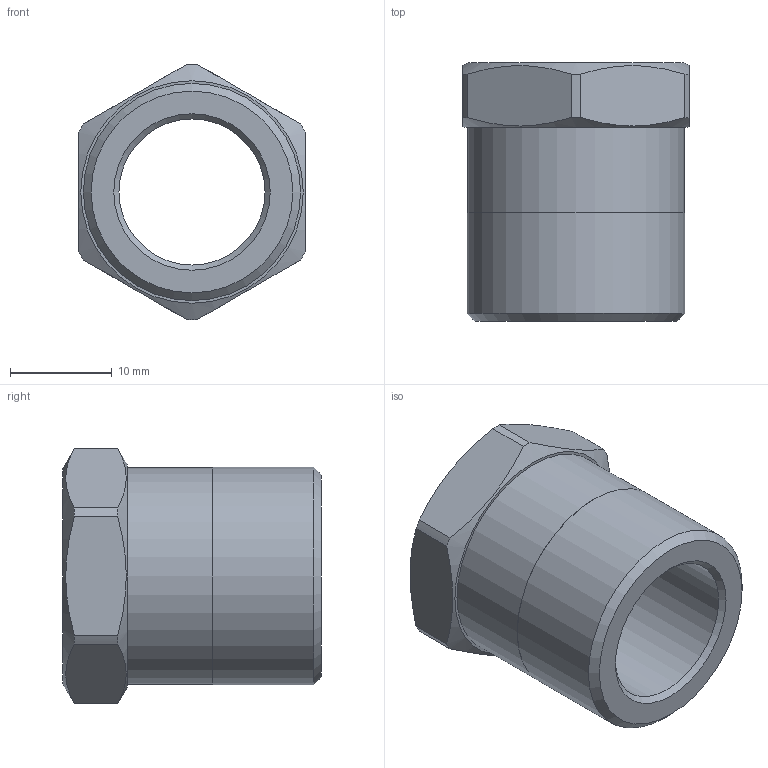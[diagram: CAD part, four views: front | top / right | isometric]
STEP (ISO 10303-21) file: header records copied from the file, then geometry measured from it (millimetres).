
FILE_DESCRIPTION(/* description */ (''),/* implementation_level */ '2;1');
FILE_NAME(/* name */ 'C:/Users/drich/Desktop/RB50-6 v1.step',/* time_stamp */ '2020-02-09T11:00:16-06:00',/* author */ (''),/* organization */ (''),/* preprocessor_version */ 'ST-DEVELOPER v18',/* originating_system */ 'Autodesk Translation Framework v8.12.0.6',/* authorisation */ '');
FILE_SCHEMA (('AUTOMOTIVE_DESIGN { 1 0 10303 214 3 1 1 }'));
Length unit declared in the file: inch
Products named in the file (1): RB50-6
Bounding box: 22.23 x 25.4 x 25.15 mm (x, y, z)
Volume: 5303.1 mm3; surface area: 3311.5 mm2
Topology: 1 solids, 1 shells, 26 faces, 68 edges, 47 vertices
Faces by surface type: plane 11, cylinder 10, cone 5
Full cylindrical faces by diameter (mm): 14.351 x1, 14.402 x1, 21.285 x1, 21.336 x1
Entity records: 861 total; most frequent: CARTESIAN_POINT 166, DIRECTION 145, ORIENTED_EDGE 136, EDGE_CURVE 68, AXIS2_PLACEMENT_3D 62, VERTEX_POINT 47, CIRCLE 35, EDGE_LOOP 31
